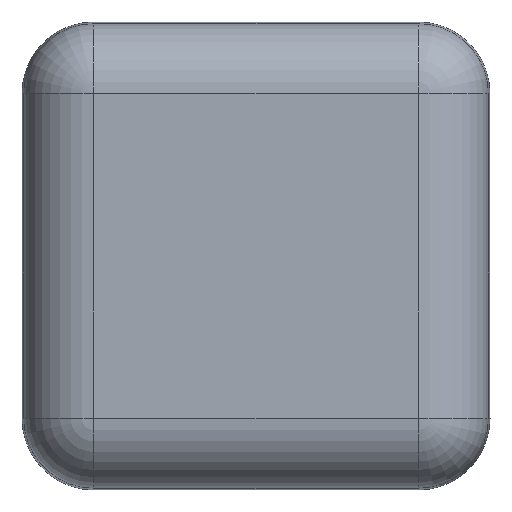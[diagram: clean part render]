
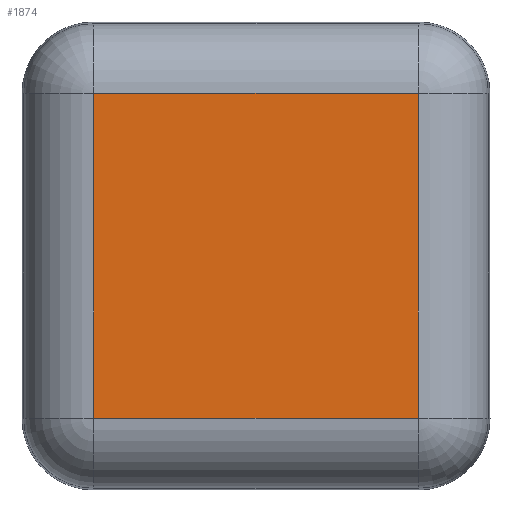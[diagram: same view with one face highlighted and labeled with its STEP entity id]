
A CAD part, top view. The second image highlights one B-rep face of the part: STEP entity #1874.
In plain terms, the highlighted planar face has unit normal (0, 0, 1).
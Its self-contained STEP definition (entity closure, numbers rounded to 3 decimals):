
#175 = LINE ( 'NONE', #1982, #2390 ) ;
#246 = VERTEX_POINT ( 'NONE', #2907 ) ;
#368 = PLANE ( 'NONE',  #480 ) ;
#480 = AXIS2_PLACEMENT_3D ( 'NONE', #2560, #658, #2620 ) ;
#597 = LINE ( 'NONE', #2561, #1029 ) ;
#624 = CARTESIAN_POINT ( 'NONE',  ( 6.944, -6.944, 0. ) ) ;
#658 = DIRECTION ( 'NONE',  ( 0., 0., 1. ) ) ;
#733 = EDGE_CURVE ( 'NONE', #246, #1785, #1521, .T. ) ;
#805 = CARTESIAN_POINT ( 'NONE',  ( -6.944, -6.944, 0. ) ) ;
#1029 = VECTOR ( 'NONE', #1861, 1000. ) ;
#1421 = ORIENTED_EDGE ( 'NONE', *, *, #733, .F. ) ;
#1490 = EDGE_CURVE ( 'NONE', #1672, #246, #175, .T. ) ;
#1521 = LINE ( 'NONE', #2745, #1924 ) ;
#1567 = CARTESIAN_POINT ( 'NONE',  ( 6.944, -6.944, 0. ) ) ;
#1671 = DIRECTION ( 'NONE',  ( 1., 0., 0. ) ) ;
#1672 = VERTEX_POINT ( 'NONE', #3048 ) ;
#1785 = VERTEX_POINT ( 'NONE', #624 ) ;
#1821 = DIRECTION ( 'NONE',  ( -1., 0., 0. ) ) ;
#1861 = DIRECTION ( 'NONE',  ( 0., 1., 0. ) ) ;
#1874 = ADVANCED_FACE ( 'NONE', ( #2865 ), #368, .T. ) ;
#1924 = VECTOR ( 'NONE', #3044, 1000. ) ;
#1982 = CARTESIAN_POINT ( 'NONE',  ( 6.944, 6.944, 0. ) ) ;
#2177 = ORIENTED_EDGE ( 'NONE', *, *, #1490, .F. ) ;
#2256 = ORIENTED_EDGE ( 'NONE', *, *, #3064, .F. ) ;
#2281 = VECTOR ( 'NONE', #1821, 1000. ) ;
#2312 = VERTEX_POINT ( 'NONE', #805 ) ;
#2355 = EDGE_CURVE ( 'NONE', #1785, #2312, #2791, .T. ) ;
#2390 = VECTOR ( 'NONE', #1671, 1000. ) ;
#2560 = CARTESIAN_POINT ( 'NONE',  ( 0., 0., 0. ) ) ;
#2561 = CARTESIAN_POINT ( 'NONE',  ( -6.944, 6.944, 0. ) ) ;
#2620 = DIRECTION ( 'NONE',  ( 1., 0., 0. ) ) ;
#2745 = CARTESIAN_POINT ( 'NONE',  ( 6.944, 6.944, 0. ) ) ;
#2791 = LINE ( 'NONE', #1567, #2281 ) ;
#2865 = FACE_OUTER_BOUND ( 'NONE', #2934, .T. ) ;
#2907 = CARTESIAN_POINT ( 'NONE',  ( 6.944, 6.944, 0. ) ) ;
#2934 = EDGE_LOOP ( 'NONE', ( #2177, #2256, #2983, #1421 ) ) ;
#2983 = ORIENTED_EDGE ( 'NONE', *, *, #2355, .F. ) ;
#3044 = DIRECTION ( 'NONE',  ( 0., -1., 0. ) ) ;
#3048 = CARTESIAN_POINT ( 'NONE',  ( -6.944, 6.944, 0. ) ) ;
#3064 = EDGE_CURVE ( 'NONE', #2312, #1672, #597, .T. ) ;
